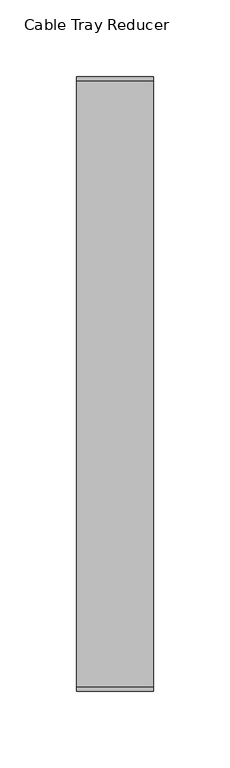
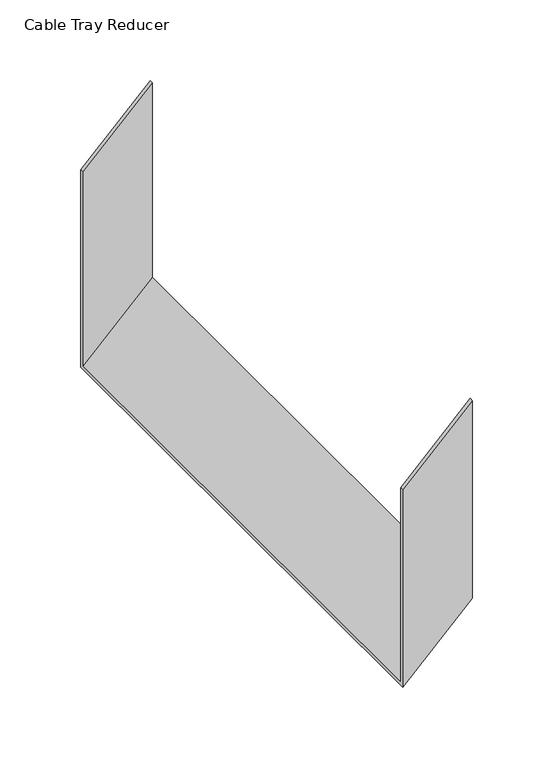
"""IFC4 building model written with IfcOpenShell, lengths in millimetres: cable carrier fitting geometry, Cable Tray Reducer : ELEC_ELV_TKG_N2402."""

from ifc_helpers import new_model, si_unit, origin, place, context, project, spatial, faceted_brep, source, transform, mapped, element, save


def cable_tray_reducer_8ec5fc44(model_context):
    return source(origin(), model_context, "Body", "Brep", [
        faceted_brep([(50.0, -200.0, -25.0000051), (50.0, 200.0, -25.0000051), (50.0, 200.0, 124.9999949), (50.0, 197.46, 124.9999949), (50.0, 197.46, -22.4600052), (50.0, -197.46, -22.4600052), (50.0, -197.46, 124.9999949), (50.0, -200.0, 124.9999949), (0.0, -200.0, -75.0), (0.0, -200.0, 75.0), (0.0, -197.46, 75.0), (0.0, -197.46, -72.46), (0.0, 197.46, -72.46), (0.0, 197.46, 75.0), (0.0, 200.0, 75.0), (0.0, 200.0, -75.0)], [[[0, 1, 2, 3, 4, 5, 6, 7]], [[8, 9, 10, 11, 12, 13, 14, 15]], [[8, 15, 1, 0]], [[15, 14, 2, 1]], [[14, 13, 3, 2]], [[13, 12, 4, 3]], [[12, 11, 5, 4]], [[11, 10, 6, 5]], [[10, 9, 7, 6]], [[9, 8, 0, 7]]]),
    ])


if __name__ == "__main__":
    model = new_model("IFC4")
    model_context = context("Model", 3, world=origin())
    ifc_project = project(units=[si_unit("LENGTHUNIT", "METRE", prefix="MILLI")], contexts=[model_context])
    site = spatial("IfcSite", under=ifc_project)
    building = spatial("IfcBuilding", under=site)
    placement = place(None, origin())
    cable_tray_reducer_shape = cable_tray_reducer_8ec5fc44(model_context)
    element("IfcCableCarrierFitting", 1, ObjectType="Cable Tray Reducer : ELEC_ELV_TKG_N2402", at=placement, inside=building, context=model_context, shape_type="MappedRepresentation", body=[
        mapped(cable_tray_reducer_shape, transform((0.0, 0.0, 0.0), x_axis=(1.0, 0.0, 0.0), y_axis=(0.0, 1.0, 0.0), z_axis=(0.0, 0.0, 1.0))),
    ])
    save(model, "model.ifc")
